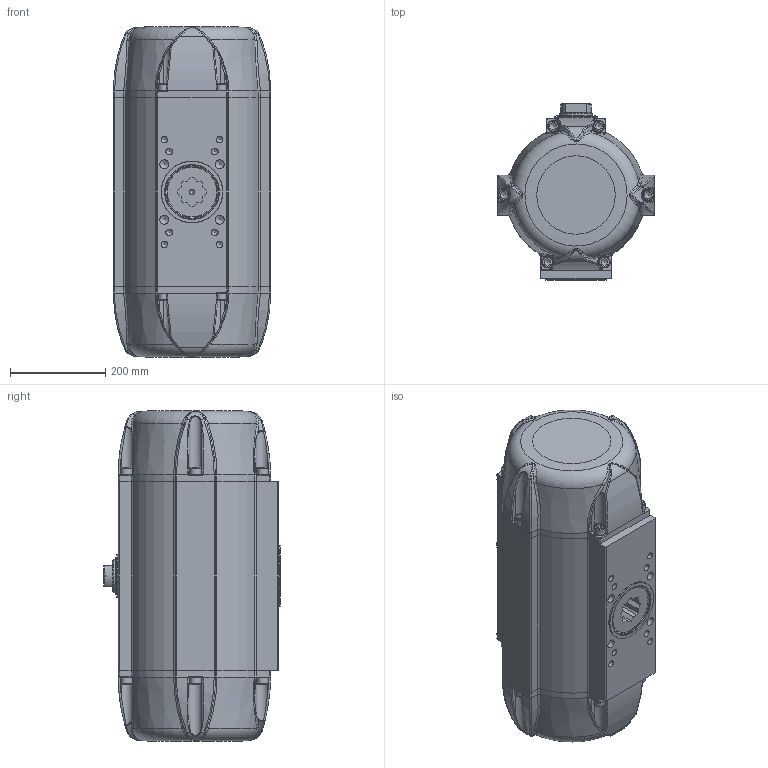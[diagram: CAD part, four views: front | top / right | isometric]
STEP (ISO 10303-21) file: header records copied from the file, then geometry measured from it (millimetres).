
FILE_DESCRIPTION((''),'2;1');
FILE_NAME('Z:\DOKUMENTATION ANTRIEBSPROGRAMM\Antriebe (neu)\BR16_SAD_SAF_90°\STEP-Dateien\45\SAF_45_BR16.stp','2017-06-20T10:52:20',('vmi'),(''),'Autodesk Inventor 2013','Autodesk Inventor 2013','');
FILE_SCHEMA(('AUTOMOTIVE_DESIGN { 1 0 10303 214 1 1 1 1 }'));
Length unit declared in the file: millimetre
Products named in the file (1): ENG-084393_Shrinkwrap_1
Bounding box: 330 x 370 x 695 mm (x, y, z)
Surface area: 1157338.7 mm2 (no closed solid volume)
Topology: 0 solids, 29 shells, 595 faces, 1910 edges, 1254 vertices
Faces by surface type: cylinder 198, plane 174, bspline 148, cone 44, torus 31
Full cylindrical faces by diameter (mm): 4.134 x2, 4.917 x4, 10 x2, 10.106 x2, 13.835 x8, 18.376 x4, 18.631 x2, 24 x12, 65 x1, 69.8 x1, 90 x1, 106 x1, 114 x1, 130 x1, 266 x1
Entity records: 28714 total; most frequent: CARTESIAN_POINT 13299, ORIENTED_EDGE 2909, DIRECTION 2700, EDGE_CURVE 1756, VERTEX_POINT 1209, AXIS2_PLACEMENT_3D 1064, EDGE_LOOP 751, CIRCLE 600
